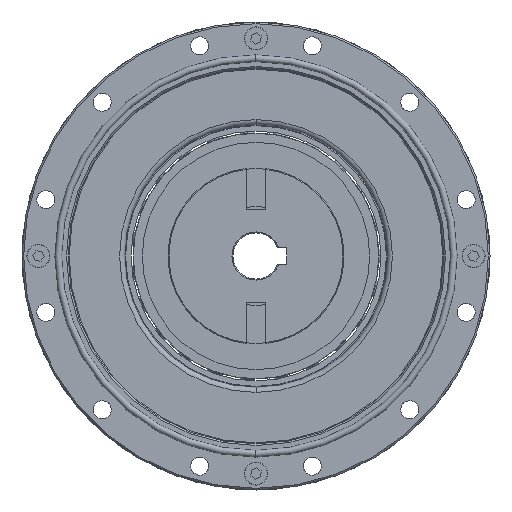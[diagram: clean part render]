
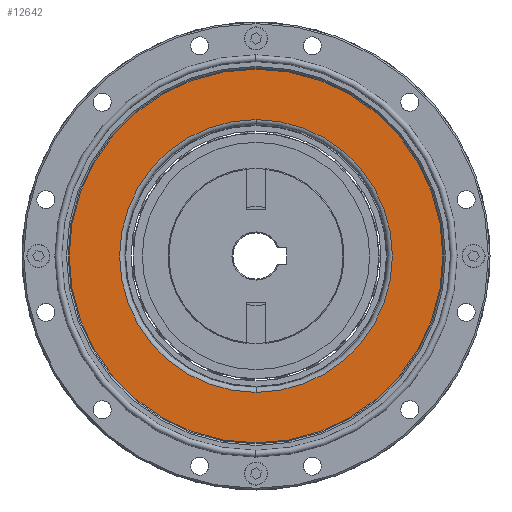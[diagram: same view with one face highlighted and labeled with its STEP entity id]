
A CAD part, left-side view. The second image highlights one B-rep face of the part: STEP entity #12642.
In plain terms, the highlighted planar face has unit normal (-1, 0, 0).
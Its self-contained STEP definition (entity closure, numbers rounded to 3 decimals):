
#61 = FACE_BOUND ( 'NONE', #19879, .T. ) ;
#3131 = CIRCLE ( 'NONE', #15512, 41.378 ) ;
#3653 = CARTESIAN_POINT ( 'NONE',  ( -17.15, 0., -41.378 ) ) ;
#5375 = VERTEX_POINT ( 'NONE', #12061 ) ;
#5504 = EDGE_CURVE ( 'NONE', #18126, #5375, #22971, .T. ) ;
#6313 = DIRECTION ( 'NONE',  ( 1., 0., 0. ) ) ;
#6920 = AXIS2_PLACEMENT_3D ( 'NONE', #21571, #6313, #16004 ) ;
#7043 = VERTEX_POINT ( 'NONE', #3653 ) ;
#7546 = ORIENTED_EDGE ( 'NONE', *, *, #17697, .F. ) ;
#7714 = AXIS2_PLACEMENT_3D ( 'NONE', #19766, #8509, #21659 ) ;
#7872 = EDGE_LOOP ( 'NONE', ( #19066, #15039 ) ) ;
#8509 = DIRECTION ( 'NONE',  ( -1., 0., 0. ) ) ;
#8997 = VERTEX_POINT ( 'NONE', #12471 ) ;
#9791 = EDGE_CURVE ( 'NONE', #7043, #8997, #3131, .T. ) ;
#10009 = CARTESIAN_POINT ( 'NONE',  ( -17.15, 0., -56.7 ) ) ;
#10623 = DIRECTION ( 'NONE',  ( -1., 0., 0. ) ) ;
#10720 = DIRECTION ( 'NONE',  ( -1., 0., 0. ) ) ;
#11080 = CARTESIAN_POINT ( 'NONE',  ( -17.15, 0., 0. ) ) ;
#11918 = AXIS2_PLACEMENT_3D ( 'NONE', #11080, #10720, #24036 ) ;
#12061 = CARTESIAN_POINT ( 'NONE',  ( -17.15, 0., 56.7 ) ) ;
#12443 = DIRECTION ( 'NONE',  ( 0., 0., -1. ) ) ;
#12471 = CARTESIAN_POINT ( 'NONE',  ( -17.15, 0., 41.378 ) ) ;
#12642 = ADVANCED_FACE ( 'NONE', ( #19485, #61 ), #16280, .F. ) ;
#15039 = ORIENTED_EDGE ( 'NONE', *, *, #5504, .T. ) ;
#15264 = AXIS2_PLACEMENT_3D ( 'NONE', #21908, #10623, #23765 ) ;
#15512 = AXIS2_PLACEMENT_3D ( 'NONE', #16131, #24136, #12443 ) ;
#16004 = DIRECTION ( 'NONE',  ( 0., 0., 1. ) ) ;
#16017 = CIRCLE ( 'NONE', #15264, 41.378 ) ;
#16131 = CARTESIAN_POINT ( 'NONE',  ( -17.15, 0., 0. ) ) ;
#16280 = PLANE ( 'NONE',  #6920 ) ;
#17636 = EDGE_CURVE ( 'NONE', #5375, #18126, #23334, .T. ) ;
#17697 = EDGE_CURVE ( 'NONE', #8997, #7043, #16017, .T. ) ;
#18126 = VERTEX_POINT ( 'NONE', #10009 ) ;
#19066 = ORIENTED_EDGE ( 'NONE', *, *, #17636, .T. ) ;
#19485 = FACE_OUTER_BOUND ( 'NONE', #7872, .T. ) ;
#19766 = CARTESIAN_POINT ( 'NONE',  ( -17.15, 0., 0. ) ) ;
#19879 = EDGE_LOOP ( 'NONE', ( #20981, #7546 ) ) ;
#20981 = ORIENTED_EDGE ( 'NONE', *, *, #9791, .F. ) ;
#21571 = CARTESIAN_POINT ( 'NONE',  ( -17.15, -57., 0. ) ) ;
#21659 = DIRECTION ( 'NONE',  ( 0., 0., 1. ) ) ;
#21908 = CARTESIAN_POINT ( 'NONE',  ( -17.15, 0., 0. ) ) ;
#22971 = CIRCLE ( 'NONE', #11918, 56.7 ) ;
#23334 = CIRCLE ( 'NONE', #7714, 56.7 ) ;
#23765 = DIRECTION ( 'NONE',  ( 0., 0., -1. ) ) ;
#24036 = DIRECTION ( 'NONE',  ( 0., 0., 1. ) ) ;
#24136 = DIRECTION ( 'NONE',  ( -1., 0., 0. ) ) ;
